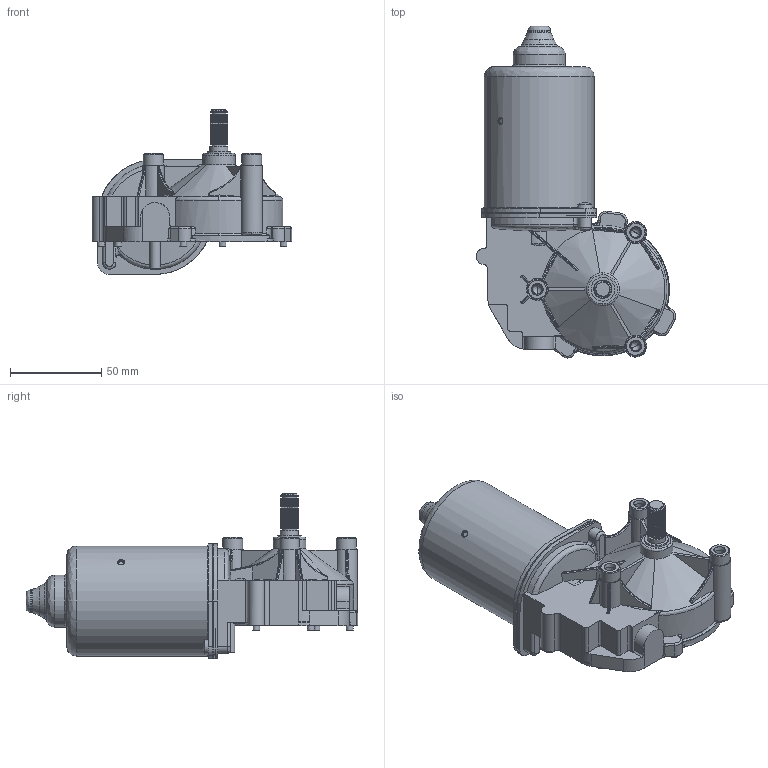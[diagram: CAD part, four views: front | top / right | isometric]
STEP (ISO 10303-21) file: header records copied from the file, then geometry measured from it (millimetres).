
FILE_DESCRIPTION (( 'STEP AP214' ), '1' );
FILE_NAME ('405032.step', '2018-06-28T08:39:47', ( '' ), ( '' ), 'SwSTEP 2.0', 'SolidWorks 2010', '' );
FILE_SCHEMA (( 'AUTOMOTIVE_DESIGN' ));
Length unit declared in the file: millimetre
Products named in the file (3): Motor-DCK35-Left-KGK; Shaft-W321-KGK; 405032
Assembly tree (2 placements, depth 2):
  405032
    Motor-DCK35-Left-KGK
    Shaft-W321-KGK
Bounding box: 109.5 x 182.25 x 90.5 mm (x, y, z)
Volume: 236878.4 mm3; surface area: 78662.9 mm2
Topology: 2 solids, 7 shells, 751 faces, 2164 edges, 1459 vertices
Faces by surface type: plane 316, cylinder 209, bspline 174, cone 52
Full cylindrical faces by diameter (mm): 2.5 x2, 3.4 x2, 3.5 x4, 3.6 x2, 3.8 x4, 3.9 x2, 4 x2, 4.2 x6, 4.4 x3, 4.8 x2, 5.3 x3, 8 x3, 10 x2, 10.3 x1, 11 x3, 12 x3, 12.4 x1, 13 x1, 14 x1, 18 x2, 24.15 x1, 24.4 x1, 28.55 x1, 56 x2, 60.4 x1
Entity records: 41504 total; most frequent: CARTESIAN_POINT 24866, ORIENTED_EDGE 4012, DIRECTION 2298, EDGE_CURVE 2006, VERTEX_POINT 1428, B_SPLINE_CURVE_WITH_KNOTS 1078, EDGE_LOOP 918, FACE_OUTER_BOUND 829
